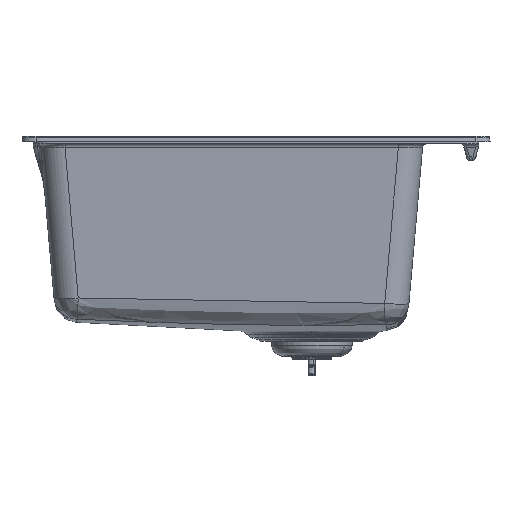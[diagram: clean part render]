
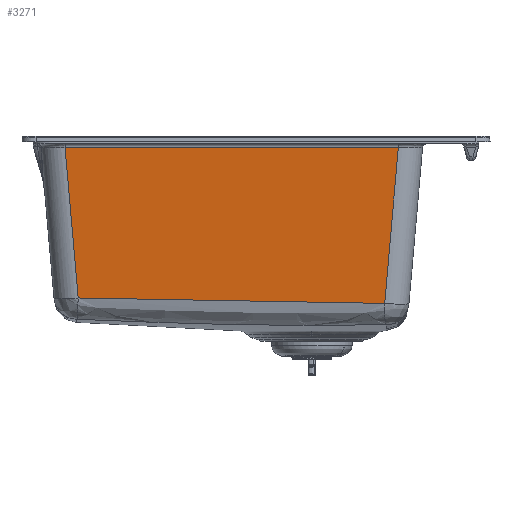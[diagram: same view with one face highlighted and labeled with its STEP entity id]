
A CAD part, front view. The second image highlights one B-rep face of the part: STEP entity #3271.
In plain terms, the highlighted planar face has unit normal (0, -0.996, -0.087).
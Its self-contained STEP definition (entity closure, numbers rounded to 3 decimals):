
#3271=ADVANCED_FACE('',(#5160),#34563,.T.);
#5160=FACE_OUTER_BOUND('',#7065,.T.);
#7065=EDGE_LOOP('',(#9958,#9959,#9960,#9961));
#9958=ORIENTED_EDGE('',*,*,#19297,.T.);
#9959=ORIENTED_EDGE('',*,*,#19306,.T.);
#9960=ORIENTED_EDGE('',*,*,#19345,.T.);
#9961=ORIENTED_EDGE('',*,*,#19303,.F.);
#19297=EDGE_CURVE('',#30949,#30950,#24178,.T.);
#19303=EDGE_CURVE('',#30949,#30953,#24179,.T.);
#19306=EDGE_CURVE('',#30950,#30954,#24182,.T.);
#19345=EDGE_CURVE('',#30954,#30953,#24200,.T.);
#24178=B_SPLINE_CURVE_WITH_KNOTS('',1,(#52970,#52971),.UNSPECIFIED.,.F.,
 .F.,(2,2),(-356.045,0.),.UNSPECIFIED.);
#24179=B_SPLINE_CURVE_WITH_KNOTS('',1,(#52991,#52992),.UNSPECIFIED.,.F.,
 .F.,(2,2),(0.,167.457),.UNSPECIFIED.);
#24182=B_SPLINE_CURVE_WITH_KNOTS('',1,(#52997,#52998),.UNSPECIFIED.,.F.,
 .F.,(2,2),(-161.644,0.),.UNSPECIFIED.);
#24200=B_SPLINE_CURVE_WITH_KNOTS('',3,(#53171,#53172,#53173,#53174,#53175,
#53176,#53177),.UNSPECIFIED.,.F.,.F.,(4,1,1,1,4),(-327.592,-233.994,
-140.397,-93.598,0.),.UNSPECIFIED.);
#30949=VERTEX_POINT('',#50391);
#30950=VERTEX_POINT('',#50392);
#30953=VERTEX_POINT('',#50395);
#30954=VERTEX_POINT('',#50396);
#34563=PLANE('',#35833);
#35833=AXIS2_PLACEMENT_3D('',#46681,#38879,$);
#38879=DIRECTION('',(0.,-0.996,-0.087));
#46681=CARTESIAN_POINT('',(187.747,-371.398,140.078));
#50391=CARTESIAN_POINT('',(152.023,-369.924,123.222));
#50392=CARTESIAN_POINT('',(-204.023,-369.924,123.222));
#50395=CARTESIAN_POINT('',(137.483,-355.384,-42.968));
#50396=CARTESIAN_POINT('',(-189.988,-355.889,-37.198));
#52970=CARTESIAN_POINT('',(152.023,-369.924,123.222));
#52971=CARTESIAN_POINT('',(-204.023,-369.924,123.222));
#52991=CARTESIAN_POINT('',(152.023,-369.924,123.222));
#52992=CARTESIAN_POINT('',(137.483,-355.384,-42.968));
#52997=CARTESIAN_POINT('',(-204.023,-369.924,123.222));
#52998=CARTESIAN_POINT('',(-189.988,-355.889,-37.198));
#53171=CARTESIAN_POINT('',(-189.988,-355.889,-37.198));
#53172=CARTESIAN_POINT('',(-158.817,-355.774,-38.512));
#53173=CARTESIAN_POINT('',(-96.469,-355.558,-40.979));
#53174=CARTESIAN_POINT('',(-18.502,-355.367,-43.166));
#53175=CARTESIAN_POINT('',(59.492,-355.29,-44.043));
#53176=CARTESIAN_POINT('',(106.291,-355.328,-43.604));
#53177=CARTESIAN_POINT('',(137.483,-355.384,-42.968));
